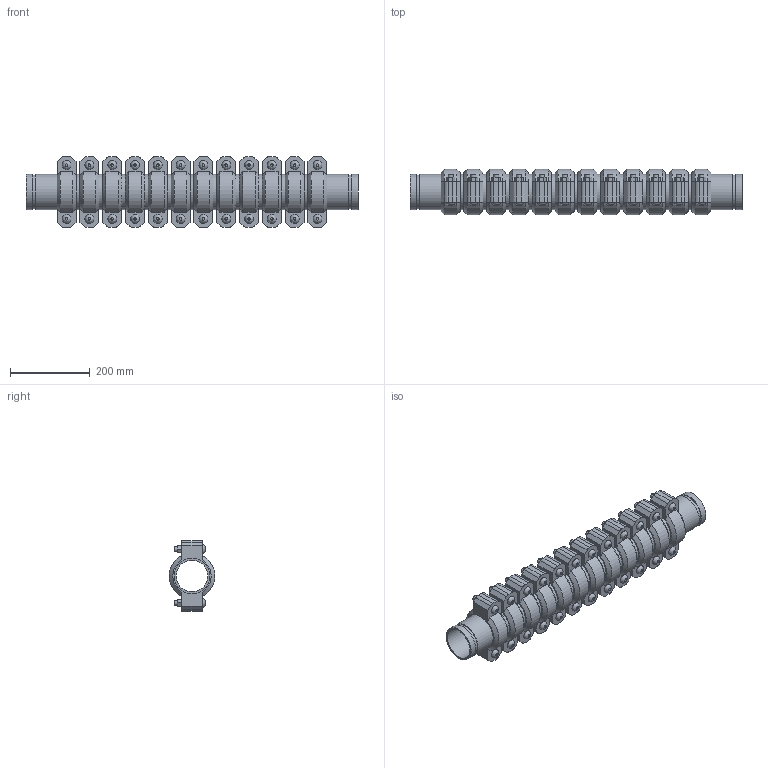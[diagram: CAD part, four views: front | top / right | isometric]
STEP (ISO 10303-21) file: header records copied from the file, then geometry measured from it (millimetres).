
FILE_DESCRIPTION(/* description */ ('VIC SS EXPANSION JOINT 12 COUPLINGS COMPRESSED STYLE 155P (OGS) (POTABLE WATER) ','CAx-IF Rec.Pracs.---Representation and Presentation of Product Manufacturing Information (PMI)---4.0---2014-10-13'),/* implementation_level */ '2;1');
FILE_NAME(/* name */ 'C:\Users\kkamble\AppData\Roaming\Autodesk\ApplicationPlugins\Victaulic.Temp\A528\Victaulic_SS_Expansion Joint_Compressed_12 Couplings_Style 155P (OGS)-Potable Water_12 Coup_Comp_3 (80).stp',/* time_stamp */ '2021-07-16T17:08:11+06:00',/* author */ ('kkamble'),/* organization */ ('Victaulic'),/* preprocessor_version */ 'ST-DEVELOPER v17.2',/* originating_system */ 'Autodesk Inventor 2019',/* authorisation */ '');
FILE_SCHEMA (('AP242_MANAGED_MODEL_BASED_3D_ENGINEERING_MIM_LF { 1 0 10303 442 1 1 4 }'));
Length unit declared in the file: inch
Products named in the file (4): 155P-03.0; Nipple-03.0; Nipple-03.0_1; 075-03.0
Assembly tree (25 placements, depth 2):
  155P-03.0
    Nipple-03.0  x2
    Nipple-03.0_1  x11
    075-03.0  x12
Bounding box: 831.85 x 113.88 x 177.8 mm (x, y, z)
Volume: 4924670.3 mm3; surface area: 1210163.1 mm2
Topology: 25 solids, 49 shells, 792 faces, 1914 edges, 1344 vertices
Faces by surface type: plane 486, cylinder 234, cone 48, bspline 24
Full cylindrical faces by diameter (mm): 12.7 x48, 14.605 x24, 79.35 x13, 84.938 x26, 88.9 x51
Entity records: 2801 total; most frequent: CARTESIAN_POINT 495, DIRECTION 475, ORIENTED_EDGE 374, AXIS2_PLACEMENT_3D 192, EDGE_CURVE 187, VERTEX_POINT 134, EDGE_LOOP 101, LINE 91
